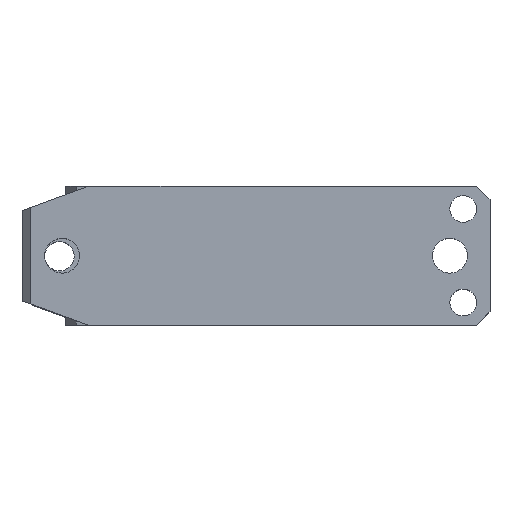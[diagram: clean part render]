
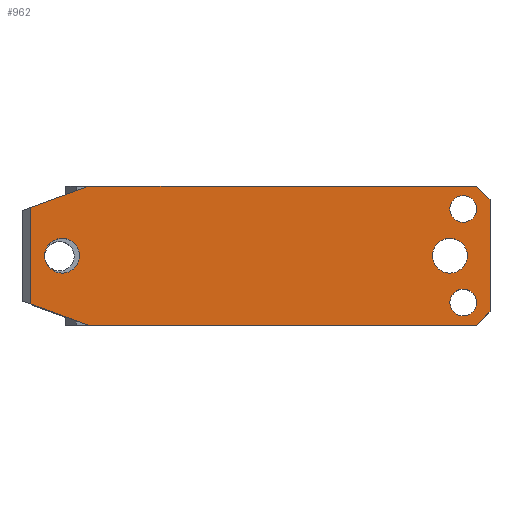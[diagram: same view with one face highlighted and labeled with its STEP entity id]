
A CAD part, top view. The second image highlights one B-rep face of the part: STEP entity #962.
In plain terms, the highlighted planar face has unit normal (0, 0, 1).
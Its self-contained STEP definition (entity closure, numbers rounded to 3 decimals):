
#3 = DIRECTION ( 'NONE',  ( 0., 0., -1. ) ) ;
#561 = EDGE_CURVE ( 'NONE', #2343, #4094, #6929, .T. ) ;
#667 = DIRECTION ( 'NONE',  ( 0., -1., 0. ) ) ;
#752 = EDGE_CURVE ( 'NONE', #3197, #11054, #2281, .T. ) ;
#836 = ORIENTED_EDGE ( 'NONE', *, *, #7824, .T. ) ;
#865 = ORIENTED_EDGE ( 'NONE', *, *, #5517, .F. ) ;
#926 = CARTESIAN_POINT ( 'NONE',  ( 171., 21., 125. ) ) ;
#962 = ADVANCED_FACE ( 'NONE', ( #4796, #9289, #7195, #3524, #2690 ), #8959, .F. ) ;
#966 = CARTESIAN_POINT ( 'NONE',  ( -4., -26., 125. ) ) ;
#1115 = LINE ( 'NONE', #7131, #10381 ) ;
#1135 = CARTESIAN_POINT ( 'NONE',  ( 11., 0., 125. ) ) ;
#1270 = ORIENTED_EDGE ( 'NONE', *, *, #5232, .T. ) ;
#1542 = CIRCLE ( 'NONE', #9034, 6.5 ) ;
#1613 = VERTEX_POINT ( 'NONE', #9927 ) ;
#1696 = LINE ( 'NONE', #5197, #3794 ) ;
#1749 = DIRECTION ( 'NONE',  ( -0.94, 0.342, 0. ) ) ;
#1826 = ORIENTED_EDGE ( 'NONE', *, *, #7781, .T. ) ;
#1848 = EDGE_CURVE ( 'NONE', #5171, #5837, #10670, .T. ) ;
#1872 = DIRECTION ( 'NONE',  ( 1., 0., 0. ) ) ;
#1905 = VERTEX_POINT ( 'NONE', #926 ) ;
#2025 = EDGE_LOOP ( 'NONE', ( #7854, #2789 ) ) ;
#2029 = DIRECTION ( 'NONE',  ( -1., 0., 0. ) ) ;
#2058 = CARTESIAN_POINT ( 'NONE',  ( 166., -26., 125. ) ) ;
#2064 = DIRECTION ( 'NONE',  ( 0., 0., -1. ) ) ;
#2212 = VECTOR ( 'NONE', #11671, 1000. ) ;
#2261 = CARTESIAN_POINT ( 'NONE',  ( -4., 16.901, 125. ) ) ;
#2281 = CIRCLE ( 'NONE', #2867, 5. ) ;
#2331 = EDGE_CURVE ( 'NONE', #9768, #7539, #1115, .T. ) ;
#2343 = VERTEX_POINT ( 'NONE', #2638 ) ;
#2521 = EDGE_CURVE ( 'NONE', #5837, #5171, #1542, .T. ) ;
#2637 = CIRCLE ( 'NONE', #3603, 5. ) ;
#2638 = CARTESIAN_POINT ( 'NONE',  ( 4.5, 0., 125. ) ) ;
#2690 = FACE_OUTER_BOUND ( 'NONE', #8745, .T. ) ;
#2789 = ORIENTED_EDGE ( 'NONE', *, *, #1848, .T. ) ;
#2839 = CARTESIAN_POINT ( 'NONE',  ( 166., 26., 125. ) ) ;
#2867 = AXIS2_PLACEMENT_3D ( 'NONE', #5105, #11389, #6012 ) ;
#3048 = CARTESIAN_POINT ( 'NONE',  ( 166., -17.5, 125. ) ) ;
#3136 = LINE ( 'NONE', #4390, #10306 ) ;
#3197 = VERTEX_POINT ( 'NONE', #3048 ) ;
#3267 = DIRECTION ( 'NONE',  ( 0., -1., 0. ) ) ;
#3454 = VERTEX_POINT ( 'NONE', #7041 ) ;
#3524 = FACE_BOUND ( 'NONE', #2025, .T. ) ;
#3540 = EDGE_CURVE ( 'NONE', #1613, #10028, #4584, .T. ) ;
#3583 = CARTESIAN_POINT ( 'NONE',  ( -4., 26., 125. ) ) ;
#3603 = AXIS2_PLACEMENT_3D ( 'NONE', #9659, #4286, #10563 ) ;
#3787 = EDGE_LOOP ( 'NONE', ( #4357, #8003 ) ) ;
#3794 = VECTOR ( 'NONE', #667, 1000. ) ;
#3819 = DIRECTION ( 'NONE',  ( 0., 0., -1. ) ) ;
#3913 = ORIENTED_EDGE ( 'NONE', *, *, #3540, .F. ) ;
#3968 = CARTESIAN_POINT ( 'NONE',  ( 161., -17.5, 125. ) ) ;
#4050 = VECTOR ( 'NONE', #8521, 1000. ) ;
#4094 = VERTEX_POINT ( 'NONE', #10644 ) ;
#4096 = CARTESIAN_POINT ( 'NONE',  ( -1., 17.993, 125. ) ) ;
#4251 = CARTESIAN_POINT ( 'NONE',  ( 21., -26., 125. ) ) ;
#4286 = DIRECTION ( 'NONE',  ( 0., 0., -1. ) ) ;
#4357 = ORIENTED_EDGE ( 'NONE', *, *, #9124, .T. ) ;
#4390 = CARTESIAN_POINT ( 'NONE',  ( -4., 26., 125. ) ) ;
#4584 = LINE ( 'NONE', #10702, #2212 ) ;
#4646 = ORIENTED_EDGE ( 'NONE', *, *, #9717, .F. ) ;
#4655 = CARTESIAN_POINT ( 'NONE',  ( 156., 17.5, 125. ) ) ;
#4664 = AXIS2_PLACEMENT_3D ( 'NONE', #5416, #3, #6322 ) ;
#4676 = VERTEX_POINT ( 'NONE', #4096 ) ;
#4757 = LINE ( 'NONE', #966, #9247 ) ;
#4796 = FACE_BOUND ( 'NONE', #6669, .T. ) ;
#4866 = DIRECTION ( 'NONE',  ( -1., 0., 0. ) ) ;
#5053 = CIRCLE ( 'NONE', #4664, 6.5 ) ;
#5105 = CARTESIAN_POINT ( 'NONE',  ( 161., -17.5, 125. ) ) ;
#5171 = VERTEX_POINT ( 'NONE', #5673 ) ;
#5197 = CARTESIAN_POINT ( 'NONE',  ( -1., 26., 125. ) ) ;
#5232 = EDGE_CURVE ( 'NONE', #11054, #3197, #8627, .T. ) ;
#5291 = CARTESIAN_POINT ( 'NONE',  ( 156., 0., 125. ) ) ;
#5294 = LINE ( 'NONE', #11602, #10051 ) ;
#5414 = DIRECTION ( 'NONE',  ( -1., 0., 0. ) ) ;
#5416 = CARTESIAN_POINT ( 'NONE',  ( 11., 0., 125. ) ) ;
#5517 = EDGE_CURVE ( 'NONE', #3454, #6258, #3136, .T. ) ;
#5520 = AXIS2_PLACEMENT_3D ( 'NONE', #5291, #11586, #6220 ) ;
#5533 = AXIS2_PLACEMENT_3D ( 'NONE', #1135, #7406, #2029 ) ;
#5560 = EDGE_LOOP ( 'NONE', ( #7167, #1826 ) ) ;
#5673 = CARTESIAN_POINT ( 'NONE',  ( 162.5, 0., 125. ) ) ;
#5837 = VERTEX_POINT ( 'NONE', #7559 ) ;
#6012 = DIRECTION ( 'NONE',  ( -1., 0., 0. ) ) ;
#6220 = DIRECTION ( 'NONE',  ( -1., 0., 0. ) ) ;
#6237 = DIRECTION ( 'NONE',  ( 0.707, -0.707, 0. ) ) ;
#6258 = VERTEX_POINT ( 'NONE', #2839 ) ;
#6322 = DIRECTION ( 'NONE',  ( -1., 0., 0. ) ) ;
#6596 = VECTOR ( 'NONE', #3267, 1000. ) ;
#6669 = EDGE_LOOP ( 'NONE', ( #1270, #7590 ) ) ;
#6748 = ORIENTED_EDGE ( 'NONE', *, *, #8085, .F. ) ;
#6929 = CIRCLE ( 'NONE', #5533, 6.5 ) ;
#6950 = CARTESIAN_POINT ( 'NONE',  ( 166., 17.5, 125. ) ) ;
#7041 = CARTESIAN_POINT ( 'NONE',  ( 21., 26., 125. ) ) ;
#7131 = CARTESIAN_POINT ( 'NONE',  ( -4., -16.901, 125. ) ) ;
#7167 = ORIENTED_EDGE ( 'NONE', *, *, #561, .T. ) ;
#7195 = FACE_BOUND ( 'NONE', #5560, .T. ) ;
#7218 = EDGE_CURVE ( 'NONE', #4676, #7539, #1696, .T. ) ;
#7406 = DIRECTION ( 'NONE',  ( 0., 0., -1. ) ) ;
#7453 = CARTESIAN_POINT ( 'NONE',  ( 161., 17.5, 125. ) ) ;
#7539 = VERTEX_POINT ( 'NONE', #9521 ) ;
#7559 = CARTESIAN_POINT ( 'NONE',  ( 149.5, 0., 125. ) ) ;
#7590 = ORIENTED_EDGE ( 'NONE', *, *, #752, .T. ) ;
#7753 = CARTESIAN_POINT ( 'NONE',  ( 171., 26., 125. ) ) ;
#7781 = EDGE_CURVE ( 'NONE', #4094, #2343, #5053, .T. ) ;
#7824 = EDGE_CURVE ( 'NONE', #9768, #10028, #4757, .T. ) ;
#7854 = ORIENTED_EDGE ( 'NONE', *, *, #2521, .T. ) ;
#7986 = ORIENTED_EDGE ( 'NONE', *, *, #2331, .F. ) ;
#8003 = ORIENTED_EDGE ( 'NONE', *, *, #8209, .T. ) ;
#8012 = AXIS2_PLACEMENT_3D ( 'NONE', #3968, #10242, #4866 ) ;
#8085 = EDGE_CURVE ( 'NONE', #4676, #3454, #11227, .T. ) ;
#8209 = EDGE_CURVE ( 'NONE', #9267, #9977, #2637, .T. ) ;
#8342 = DIRECTION ( 'NONE',  ( -1., 0., 0. ) ) ;
#8521 = DIRECTION ( 'NONE',  ( 0.94, 0.342, 0. ) ) ;
#8575 = ORIENTED_EDGE ( 'NONE', *, *, #10985, .F. ) ;
#8627 = CIRCLE ( 'NONE', #8012, 5. ) ;
#8745 = EDGE_LOOP ( 'NONE', ( #6748, #8825, #7986, #836, #3913, #4646, #8575, #865 ) ) ;
#8825 = ORIENTED_EDGE ( 'NONE', *, *, #7218, .T. ) ;
#8953 = LINE ( 'NONE', #7753, #6596 ) ;
#8959 = PLANE ( 'NONE',  #9234 ) ;
#8986 = CARTESIAN_POINT ( 'NONE',  ( 156., -17.5, 125. ) ) ;
#9034 = AXIS2_PLACEMENT_3D ( 'NONE', #9183, #3819, #10092 ) ;
#9124 = EDGE_CURVE ( 'NONE', #9977, #9267, #10951, .T. ) ;
#9183 = CARTESIAN_POINT ( 'NONE',  ( 156., 0., 125. ) ) ;
#9234 = AXIS2_PLACEMENT_3D ( 'NONE', #3583, #10766, #5414 ) ;
#9247 = VECTOR ( 'NONE', #1872, 1000. ) ;
#9267 = VERTEX_POINT ( 'NONE', #6950 ) ;
#9289 = FACE_BOUND ( 'NONE', #3787, .T. ) ;
#9521 = CARTESIAN_POINT ( 'NONE',  ( -1., -17.993, 125. ) ) ;
#9659 = CARTESIAN_POINT ( 'NONE',  ( 161., 17.5, 125. ) ) ;
#9717 = EDGE_CURVE ( 'NONE', #1905, #1613, #8953, .T. ) ;
#9768 = VERTEX_POINT ( 'NONE', #4251 ) ;
#9927 = CARTESIAN_POINT ( 'NONE',  ( 171., -21., 125. ) ) ;
#9977 = VERTEX_POINT ( 'NONE', #4655 ) ;
#10028 = VERTEX_POINT ( 'NONE', #2058 ) ;
#10051 = VECTOR ( 'NONE', #6237, 1000. ) ;
#10092 = DIRECTION ( 'NONE',  ( -1., 0., 0. ) ) ;
#10242 = DIRECTION ( 'NONE',  ( 0., 0., -1. ) ) ;
#10306 = VECTOR ( 'NONE', #10659, 1000. ) ;
#10381 = VECTOR ( 'NONE', #1749, 1000. ) ;
#10563 = DIRECTION ( 'NONE',  ( -1., 0., 0. ) ) ;
#10644 = CARTESIAN_POINT ( 'NONE',  ( 17.5, 0., 125. ) ) ;
#10659 = DIRECTION ( 'NONE',  ( 1., 0., 0. ) ) ;
#10670 = CIRCLE ( 'NONE', #5520, 6.5 ) ;
#10702 = CARTESIAN_POINT ( 'NONE',  ( 166., -26., 125. ) ) ;
#10762 = AXIS2_PLACEMENT_3D ( 'NONE', #7453, #2064, #8342 ) ;
#10766 = DIRECTION ( 'NONE',  ( 0., 0., -1. ) ) ;
#10951 = CIRCLE ( 'NONE', #10762, 5. ) ;
#10985 = EDGE_CURVE ( 'NONE', #6258, #1905, #5294, .T. ) ;
#11054 = VERTEX_POINT ( 'NONE', #8986 ) ;
#11227 = LINE ( 'NONE', #2261, #4050 ) ;
#11389 = DIRECTION ( 'NONE',  ( 0., 0., -1. ) ) ;
#11586 = DIRECTION ( 'NONE',  ( 0., 0., -1. ) ) ;
#11602 = CARTESIAN_POINT ( 'NONE',  ( 166., 26., 125. ) ) ;
#11671 = DIRECTION ( 'NONE',  ( -0.707, -0.707, 0. ) ) ;
